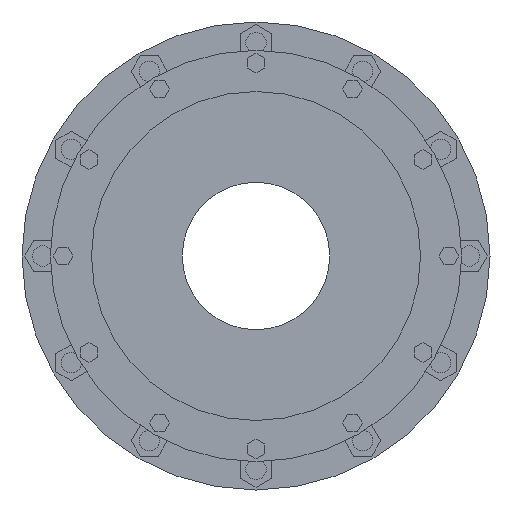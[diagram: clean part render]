
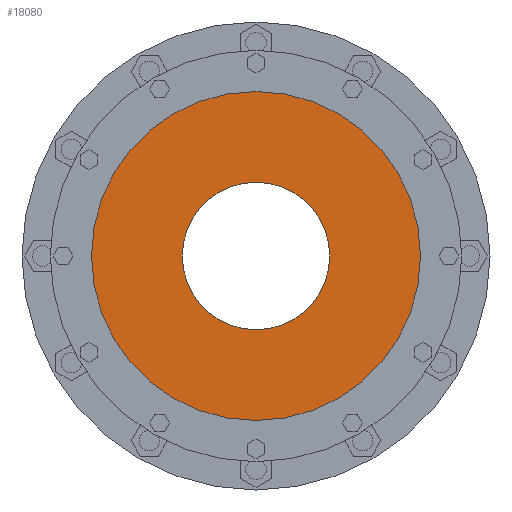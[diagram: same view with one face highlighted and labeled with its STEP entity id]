
A CAD part, left-side view. The second image highlights one B-rep face of the part: STEP entity #18080.
In plain terms, the highlighted planar face has unit normal (-1, 0, 0).
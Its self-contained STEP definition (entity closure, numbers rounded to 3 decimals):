
#17778=CARTESIAN_POINT('',(-851.5,0.,0.));
#17779=DIRECTION('',(1.,0.,0.));
#17780=DIRECTION('',(0.,1.,0.));
#17781=AXIS2_PLACEMENT_3D('',#17778,#17779,#17780);
#17857=CARTESIAN_POINT('',(-851.5,0.,0.));
#17858=DIRECTION('',(-1.,0.,0.));
#17859=DIRECTION('',(0.,1.,0.));
#17860=AXIS2_PLACEMENT_3D('',#17857,#17858,#17859);
#17862=CARTESIAN_POINT('',(-851.5,0.,0.));
#17863=DIRECTION('',(1.,0.,0.));
#17864=DIRECTION('',(0.,1.,0.));
#17865=AXIS2_PLACEMENT_3D('',#17862,#17863,#17864);
#17876=CARTESIAN_POINT('',(-851.5,0.,0.));
#17877=DIRECTION('',(-1.,0.,0.));
#17878=DIRECTION('',(0.,1.,0.));
#17879=AXIS2_PLACEMENT_3D('',#17876,#17877,#17878);
#17885=CARTESIAN_POINT('',(-851.5,130.,0.));
#17886=CARTESIAN_POINT('',(-851.5,-130.,0.));
#17887=VERTEX_POINT('',#17885);
#17888=VERTEX_POINT('',#17886);
#17889=CARTESIAN_POINT('',(-851.5,290.,0.));
#17890=CARTESIAN_POINT('',(-851.5,-290.,0.));
#17891=VERTEX_POINT('',#17889);
#17892=VERTEX_POINT('',#17890);
#18066=CARTESIAN_POINT('',(-851.5,0.,0.));
#18067=DIRECTION('',(1.,0.,0.));
#18068=DIRECTION('',(0.,-1.,0.));
#18069=AXIS2_PLACEMENT_3D('',#18066,#18067,#18068);
#18070=PLANE('',#18069);
#18071=ORIENTED_EDGE('',*,*,#18048,.F.);
#18072=ORIENTED_EDGE('',*,*,#18061,.T.);
#18073=EDGE_LOOP('',(#18071,#18072));
#18074=FACE_OUTER_BOUND('',#18073,.F.);
#18075=ORIENTED_EDGE('',*,*,#17926,.F.);
#18077=ORIENTED_EDGE('',*,*,#18076,.T.);
#18078=EDGE_LOOP('',(#18075,#18077));
#18079=FACE_BOUND('',#18078,.F.);
#18080=ADVANCED_FACE('',(#18074,#18079),#18070,.F.);
#17782=CIRCLE('',#17781,130.);
#17861=CIRCLE('',#17860,290.);
#17866=CIRCLE('',#17865,290.);
#17880=CIRCLE('',#17879,130.);
#17926=EDGE_CURVE('',#17887,#17888,#17782,.T.);
#18048=EDGE_CURVE('',#17891,#17892,#17861,.T.);
#18061=EDGE_CURVE('',#17891,#17892,#17866,.T.);
#18076=EDGE_CURVE('',#17887,#17888,#17880,.T.);
